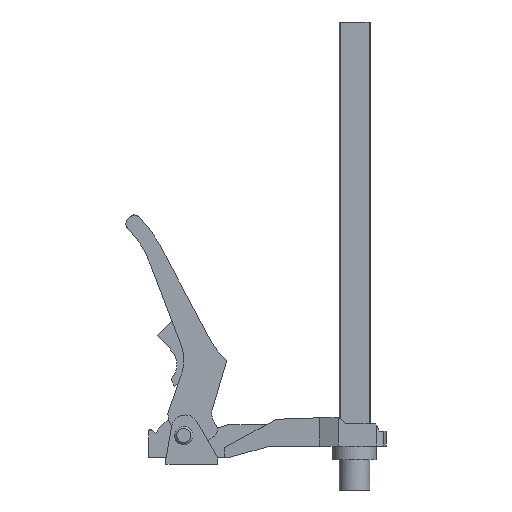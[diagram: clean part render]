
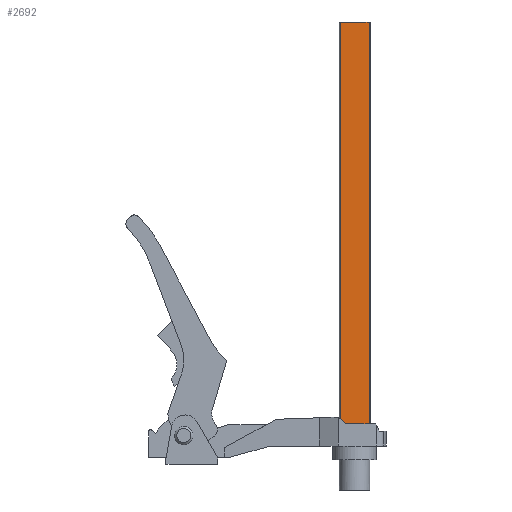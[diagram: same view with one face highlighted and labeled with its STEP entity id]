
A CAD part, front view. The second image highlights one B-rep face of the part: STEP entity #2692.
In plain terms, the highlighted free-form (B-spline) face has degree [1, 1] with [2, 2] control points.
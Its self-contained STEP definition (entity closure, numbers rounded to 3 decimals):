
#2500=CARTESIAN_POINT('',(9.602,-5.366,0.));
#2501=VERTEX_POINT('',#2500);
#2508=CARTESIAN_POINT('',(-9.602,-5.366,0.));
#2509=VERTEX_POINT('',#2508);
#2598=CARTESIAN_POINT('',(-13.265,-5.366,0.));
#2599=VERTEX_POINT('',#2598);
#2600=CARTESIAN_POINT('',(-13.265,-5.366,0.));
#2601=CARTESIAN_POINT('',(-9.602,-5.366,0.));
#2602=B_SPLINE_CURVE_WITH_KNOTS('',1,(#2600,#2601),.POLYLINE_FORM.,.F.,.U.,(2,2),(0.,0.138),.UNSPECIFIED.);
#2603=EDGE_CURVE('',#2599,#2509,#2602,.T.);
#2626=CARTESIAN_POINT('',(13.265,-5.366,0.));
#2627=VERTEX_POINT('',#2626);
#2634=CARTESIAN_POINT('',(9.602,-5.366,0.));
#2635=CARTESIAN_POINT('',(13.265,-5.366,0.));
#2636=B_SPLINE_CURVE_WITH_KNOTS('',1,(#2634,#2635),.POLYLINE_FORM.,.F.,.U.,(2,2),(0.862,1.),.UNSPECIFIED.);
#2637=EDGE_CURVE('',#2501,#2627,#2636,.T.);
#2647=CARTESIAN_POINT('',(-9.602,-5.366,0.));
#2648=CARTESIAN_POINT('',(9.602,-5.366,0.));
#2649=B_SPLINE_CURVE_WITH_KNOTS('',1,(#2647,#2648),.POLYLINE_FORM.,.F.,.U.,(2,2),(0.138,0.862),.UNSPECIFIED.);
#2650=EDGE_CURVE('',#2509,#2501,#2649,.T.);
#2663=CARTESIAN_POINT('',(-13.265,-5.366,0.));
#2664=CARTESIAN_POINT('',(-13.265,-5.366,390.));
#2665=CARTESIAN_POINT('',(13.265,-5.366,0.));
#2666=CARTESIAN_POINT('',(13.265,-5.366,390.));
#2667=B_SPLINE_SURFACE_WITH_KNOTS('',1,1,((#2663,#2664),(#2665,#2666)),.PLANE_SURF.,.F.,.F.,.U.,(2,2),(2,2),(0.,1.),(0.,1.),.UNSPECIFIED.);
#2668=ORIENTED_EDGE('',*,*,#2603,.T.);
#2669=ORIENTED_EDGE('',*,*,#2650,.T.);
#2670=ORIENTED_EDGE('',*,*,#2637,.T.);
#2671=CARTESIAN_POINT('',(13.265,-5.366,390.));
#2672=VERTEX_POINT('',#2671);
#2673=CARTESIAN_POINT('',(13.265,-5.366,0.));
#2674=CARTESIAN_POINT('',(13.265,-5.366,390.));
#2675=B_SPLINE_CURVE_WITH_KNOTS('',1,(#2673,#2674),.POLYLINE_FORM.,.F.,.U.,(2,2),(0.,1.),.UNSPECIFIED.);
#2676=EDGE_CURVE('',#2627,#2672,#2675,.T.);
#2677=ORIENTED_EDGE('',*,*,#2676,.T.);
#2678=CARTESIAN_POINT('',(-13.265,-5.366,390.));
#2679=VERTEX_POINT('',#2678);
#2680=CARTESIAN_POINT('',(-13.265,-5.366,390.));
#2681=CARTESIAN_POINT('',(13.265,-5.366,390.));
#2682=B_SPLINE_CURVE_WITH_KNOTS('',1,(#2680,#2681),.POLYLINE_FORM.,.F.,.U.,(2,2),(0.,1.),.UNSPECIFIED.);
#2683=EDGE_CURVE('',#2679,#2672,#2682,.T.);
#2684=ORIENTED_EDGE('',*,*,#2683,.F.);
#2685=CARTESIAN_POINT('',(-13.265,-5.366,0.));
#2686=CARTESIAN_POINT('',(-13.265,-5.366,390.));
#2687=B_SPLINE_CURVE_WITH_KNOTS('',1,(#2685,#2686),.POLYLINE_FORM.,.F.,.U.,(2,2),(0.,1.),.UNSPECIFIED.);
#2688=EDGE_CURVE('',#2599,#2679,#2687,.T.);
#2689=ORIENTED_EDGE('',*,*,#2688,.F.);
#2690=EDGE_LOOP('',(#2668,#2669,#2670,#2677,#2684,#2689));
#2691=FACE_OUTER_BOUND('',#2690,.T.);
#2692=ADVANCED_FACE('',(#2691),#2667,.T.);
